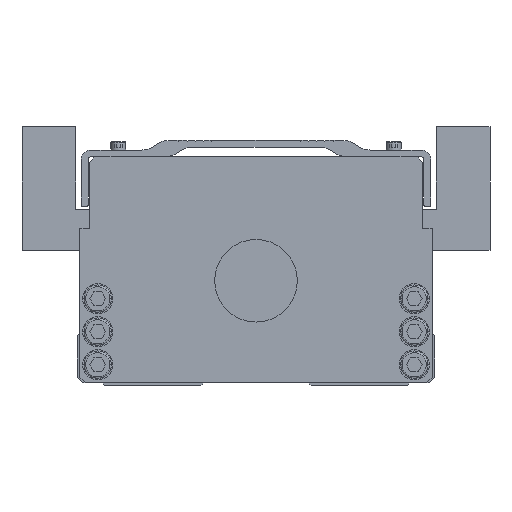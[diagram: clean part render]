
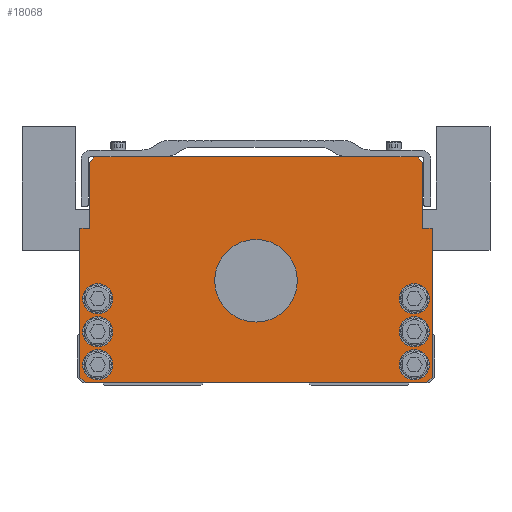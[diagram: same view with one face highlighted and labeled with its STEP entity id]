
A CAD part, front view. The second image highlights one B-rep face of the part: STEP entity #18068.
In plain terms, the highlighted planar face has unit normal (0, -1, 0).
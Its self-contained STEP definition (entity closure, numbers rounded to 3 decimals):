
#6638=VERTEX_POINT('',#19423);
#6930=EDGE_CURVE('',#6638,#8582,#19747,.T.);
#7042=EDGE_CURVE('',#13380,#16632,#19873,.T.);
#7452=VERTEX_POINT('',#20321);
#7520=VERTEX_POINT('',#20394);
#7594=VERTEX_POINT('',#20472);
#7864=EDGE_CURVE('',#8328,#7452,#20767,.T.);
#7924=EDGE_CURVE('',#9310,#6638,#20833,.T.);
#8328=VERTEX_POINT('',#21295);
#8494=EDGE_CURVE('',#17850,#12612,#21480,.T.);
#8582=VERTEX_POINT('',#21576);
#8830=EDGE_CURVE('',#16632,#14144,#21855,.T.);
#9192=EDGE_CURVE('',#14144,#11998,#22262,.T.);
#9310=VERTEX_POINT('',#22388);
#9478=EDGE_CURVE('',#14172,#9310,#22581,.T.);
#9940=EDGE_CURVE('',#16896,#11832,#23088,.T.);
#10134=EDGE_CURVE('',#18570,#7594,#23297,.T.);
#10642=VERTEX_POINT('',#23858);
#10668=VERTEX_POINT('',#23886);
#10722=EDGE_CURVE('',#8582,#11244,#23944,.T.);
#10784=EDGE_CURVE('',#15172,#16172,#24011,.T.);
#10952=EDGE_CURVE('',#7594,#18570,#24198,.T.);
#11244=VERTEX_POINT('',#24519);
#11328=EDGE_CURVE('',#17208,#7520,#24614,.T.);
#11550=EDGE_CURVE('',#18788,#18886,#24855,.T.);
#11832=VERTEX_POINT('',#25178);
#11998=VERTEX_POINT('',#25364);
#12472=EDGE_CURVE('',#16172,#15172,#25890,.T.);
#12612=VERTEX_POINT('',#26045);
#12812=VERTEX_POINT('',#26277);
#13380=VERTEX_POINT('',#26910);
#13634=EDGE_CURVE('',#7520,#17208,#27197,.T.);
#13670=EDGE_CURVE('',#12612,#17850,#27239,.T.);
#14076=EDGE_CURVE('',#12812,#17908,#27692,.T.);
#14144=VERTEX_POINT('',#27766);
#14172=VERTEX_POINT('',#27796);
#14472=EDGE_CURVE('',#11244,#13380,#28139,.T.);
#15172=VERTEX_POINT('',#28916);
#15424=EDGE_CURVE('',#17908,#12812,#29186,.T.);
#15986=EDGE_CURVE('',#16576,#10668,#29813,.T.);
#16004=EDGE_CURVE('',#11832,#16896,#29832,.T.);
#16172=VERTEX_POINT('',#30016);
#16548=EDGE_CURVE('',#11998,#8328,#30435,.T.);
#16576=VERTEX_POINT('',#30470);
#16632=VERTEX_POINT('',#30531);
#16864=EDGE_CURVE('',#10668,#14172,#30789,.T.);
#16896=VERTEX_POINT('',#30824);
#17208=VERTEX_POINT('',#31174);
#17414=EDGE_CURVE('',#10642,#16576,#31402,.T.);
#17616=EDGE_CURVE('',#7452,#10642,#31630,.T.);
#17850=VERTEX_POINT('',#31888);
#17908=VERTEX_POINT('',#31952);
#18068=ADVANCED_FACE('',(#32124,#32125,#32126,#32127,#32128,#32129,#32130,#32131),#32132,.T.);
#18174=EDGE_CURVE('',#18886,#18788,#32245,.T.);
#18570=VERTEX_POINT('',#32686);
#18788=VERTEX_POINT('',#32944);
#18886=VERTEX_POINT('',#33054);
#19423=CARTESIAN_POINT('',(-60.5,0.0,81.0));
#19747=LINE('',#34144,#34145);
#19873=LINE('',#34339,#34340);
#20321=CARTESIAN_POINT('',(64.0,0.0,3.0));
#20394=CARTESIAN_POINT('',(52.0,0.0,19.5));
#20472=CARTESIAN_POINT('',(52.0,0.0,31.5));
#20767=LINE('',#35580,#35581);
#20833=LINE('',#35672,#35673);
#21295=CARTESIAN_POINT('',(64.0,0.0,57.0));
#21480=CIRCLE('',#36550,15.0);
#21576=CARTESIAN_POINT('',(-58.5,0.0,83.0));
#21855=LINE('',#37093,#37094);
#22262=LINE('',#37652,#37653);
#22388=CARTESIAN_POINT('',(-60.5,0.0,57.0));
#22581=LINE('',#38109,#38110);
#23088=CIRCLE('',#38806,5.5);
#23297=CIRCLE('',#39113,5.5);
#23858=CARTESIAN_POINT('',(62.0,0.0,1.0));
#23886=CARTESIAN_POINT('',(-64.0,0.0,3.0));
#23944=LINE('',#40015,#40016);
#24011=CIRCLE('',#40109,5.5);
#24198=CIRCLE('',#40365,5.5);
#24519=CARTESIAN_POINT('',(-33.25,0.0,83.0));
#24614=CIRCLE('',#40929,5.5);
#24855=CIRCLE('',#41255,5.5);
#25178=CARTESIAN_POINT('',(52.0,0.0,7.5));
#25364=CARTESIAN_POINT('',(60.5,0.0,57.0));
#25890=CIRCLE('',#42714,5.5);
#26045=CARTESIAN_POINT('',(-15.0,0.0,38.0));
#26277=CARTESIAN_POINT('',(-63.0,0.0,31.5));
#26910=CARTESIAN_POINT('',(33.25,0.0,83.0));
#27197=CIRCLE('',#44496,5.5);
#27239=CIRCLE('',#44550,15.0);
#27692=CIRCLE('',#45181,5.5);
#27766=CARTESIAN_POINT('',(60.5,0.0,81.0));
#27796=CARTESIAN_POINT('',(-64.0,0.0,57.0));
#28139=LINE('',#45799,#45800);
#28916=CARTESIAN_POINT('',(-63.0,0.0,7.5));
#29186=CIRCLE('',#47252,5.5);
#29813=LINE('',#48106,#48107);
#29832=CIRCLE('',#48134,5.5);
#30016=CARTESIAN_POINT('',(-52.0,0.0,7.5));
#30435=LINE('',#48989,#48990);
#30470=CARTESIAN_POINT('',(-62.0,0.0,1.0));
#30531=CARTESIAN_POINT('',(58.5,0.0,83.0));
#30789=LINE('',#49478,#49479);
#30824=CARTESIAN_POINT('',(63.0,0.0,7.5));
#31174=CARTESIAN_POINT('',(63.0,0.0,19.5));
#31402=LINE('',#50299,#50300);
#31630=LINE('',#50598,#50599);
#31888=CARTESIAN_POINT('',(15.0,0.0,38.0));
#31952=CARTESIAN_POINT('',(-52.0,0.0,31.5));
#32124=FACE_BOUND('',#51281,.T.);
#32125=FACE_BOUND('',#51282,.T.);
#32126=FACE_BOUND('',#51283,.T.);
#32127=FACE_BOUND('',#51284,.T.);
#32128=FACE_BOUND('',#51285,.T.);
#32129=FACE_BOUND('',#51286,.T.);
#32130=FACE_BOUND('',#51287,.T.);
#32131=FACE_OUTER_BOUND('',#51288,.T.);
#32132=PLANE('',#51289);
#32245=CIRCLE('',#51450,5.5);
#32686=CARTESIAN_POINT('',(63.0,0.0,31.5));
#32944=CARTESIAN_POINT('',(-52.0,0.0,19.5));
#33054=CARTESIAN_POINT('',(-63.0,0.0,19.5));
#34144=CARTESIAN_POINT('',(-58.5,0.0,83.0));
#34145=VECTOR('',#53649,1.);
#34339=CARTESIAN_POINT('',(58.5,0.0,83.0));
#34340=VECTOR('',#53786,1.0);
#35580=CARTESIAN_POINT('',(64.0,0.0,3.0));
#35581=VECTOR('',#54755,1.0);
#35672=CARTESIAN_POINT('',(-60.5,0.0,81.0));
#35673=VECTOR('',#54838,1.0);
#36550=AXIS2_PLACEMENT_3D('',#55529,#55530,#55531);
#37093=CARTESIAN_POINT('',(60.5,0.0,81.0));
#37094=VECTOR('',#55951,1.);
#37652=CARTESIAN_POINT('',(60.5,0.0,57.0));
#37653=VECTOR('',#56434,1.0);
#38109=CARTESIAN_POINT('',(-60.5,0.0,57.0));
#38110=VECTOR('',#56811,1.0);
#38806=AXIS2_PLACEMENT_3D('',#57393,#57394,#57395);
#39113=AXIS2_PLACEMENT_3D('',#57598,#57599,#57600);
#40015=CARTESIAN_POINT('',(58.5,0.0,83.0));
#40016=VECTOR('',#58254,1.0);
#40109=AXIS2_PLACEMENT_3D('',#58314,#58315,#58316);
#40365=AXIS2_PLACEMENT_3D('',#58540,#58541,#58542);
#40929=AXIS2_PLACEMENT_3D('',#59028,#59029,#59030);
#41255=AXIS2_PLACEMENT_3D('',#59270,#59271,#59272);
#42714=AXIS2_PLACEMENT_3D('',#60510,#60511,#60512);
#44496=AXIS2_PLACEMENT_3D('',#62130,#62131,#62132);
#44550=AXIS2_PLACEMENT_3D('',#62196,#62197,#62198);
#45181=AXIS2_PLACEMENT_3D('',#62797,#62798,#62799);
#45799=CARTESIAN_POINT('',(58.5,0.0,83.0));
#45800=VECTOR('',#63317,1.0);
#47252=AXIS2_PLACEMENT_3D('',#64439,#64440,#64441);
#48106=CARTESIAN_POINT('',(-64.0,0.0,3.0));
#48107=VECTOR('',#65169,1.);
#48134=AXIS2_PLACEMENT_3D('',#65188,#65189,#65190);
#48989=CARTESIAN_POINT('',(64.0,0.0,57.0));
#48990=VECTOR('',#65881,1.0);
#49478=CARTESIAN_POINT('',(-64.0,0.0,57.0));
#49479=VECTOR('',#66282,1.0);
#50299=CARTESIAN_POINT('',(-62.0,0.0,1.0));
#50300=VECTOR('',#66939,1.0);
#50598=CARTESIAN_POINT('',(62.0,0.0,1.0));
#50599=VECTOR('',#67231,1.);
#51281=EDGE_LOOP('',(#67789,#67790));
#51282=EDGE_LOOP('',(#67791,#67792));
#51283=EDGE_LOOP('',(#67793,#67794));
#51284=EDGE_LOOP('',(#67795,#67796));
#51285=EDGE_LOOP('',(#67797,#67798));
#51286=EDGE_LOOP('',(#67799,#67800));
#51287=EDGE_LOOP('',(#67801,#67802));
#51288=EDGE_LOOP('',(#67803,#67804,#67805,#67806,#67807,#67808,#67809,#67810,#67811,#67812,#67813,#67814,#67815,#67816));
#51289=AXIS2_PLACEMENT_3D('',#67817,#67818,#67819);
#51450=AXIS2_PLACEMENT_3D('',#67935,#67936,#67937);
#53649=DIRECTION('',(0.707,0.0,0.707));
#53786=DIRECTION('',(1.0,0.0,0.0));
#54755=DIRECTION('',(-0.0,0.0,-1.0));
#54838=DIRECTION('',(0.0,0.0,1.0));
#55529=CARTESIAN_POINT('',(0.0,0.0,38.0));
#55530=DIRECTION('',(-0.0,1.0,0.0));
#55531=DIRECTION('',(1.0,0.0,0.0));
#55951=DIRECTION('',(0.707,0.0,-0.707));
#56434=DIRECTION('',(-0.0,0.0,-1.0));
#56811=DIRECTION('',(1.0,0.0,0.0));
#57393=CARTESIAN_POINT('',(57.5,0.0,7.5));
#57394=DIRECTION('',(-0.0,1.0,0.0));
#57395=DIRECTION('',(1.0,0.0,0.0));
#57598=CARTESIAN_POINT('',(57.5,0.0,31.5));
#57599=DIRECTION('',(-0.0,1.0,0.0));
#57600=DIRECTION('',(1.0,0.0,0.0));
#58254=DIRECTION('',(1.0,0.0,0.0));
#58314=CARTESIAN_POINT('',(-57.5,0.0,7.5));
#58315=DIRECTION('',(-0.0,1.0,0.0));
#58316=DIRECTION('',(1.0,0.0,0.0));
#58540=CARTESIAN_POINT('',(57.5,0.0,31.5));
#58541=DIRECTION('',(-0.0,1.0,0.0));
#58542=DIRECTION('',(1.0,0.0,0.0));
#59028=CARTESIAN_POINT('',(57.5,0.0,19.5));
#59029=DIRECTION('',(-0.0,1.0,0.0));
#59030=DIRECTION('',(1.0,0.0,0.0));
#59270=CARTESIAN_POINT('',(-57.5,0.0,19.5));
#59271=DIRECTION('',(-0.0,1.0,0.0));
#59272=DIRECTION('',(1.0,0.0,0.0));
#60510=CARTESIAN_POINT('',(-57.5,0.0,7.5));
#60511=DIRECTION('',(-0.0,1.0,0.0));
#60512=DIRECTION('',(1.0,0.0,0.0));
#62130=CARTESIAN_POINT('',(57.5,0.0,19.5));
#62131=DIRECTION('',(-0.0,1.0,0.0));
#62132=DIRECTION('',(1.0,0.0,0.0));
#62196=CARTESIAN_POINT('',(0.0,0.0,38.0));
#62197=DIRECTION('',(-0.0,1.0,0.0));
#62198=DIRECTION('',(1.0,0.0,0.0));
#62797=CARTESIAN_POINT('',(-57.5,0.0,31.5));
#62798=DIRECTION('',(-0.0,1.0,0.0));
#62799=DIRECTION('',(1.0,0.0,0.0));
#63317=DIRECTION('',(1.0,0.0,0.0));
#64439=CARTESIAN_POINT('',(-57.5,0.0,31.5));
#64440=DIRECTION('',(-0.0,1.0,0.0));
#64441=DIRECTION('',(1.0,0.0,0.0));
#65169=DIRECTION('',(-0.707,0.0,0.707));
#65188=CARTESIAN_POINT('',(57.5,0.0,7.5));
#65189=DIRECTION('',(-0.0,1.0,0.0));
#65190=DIRECTION('',(1.0,0.0,0.0));
#65881=DIRECTION('',(1.0,0.0,0.0));
#66282=DIRECTION('',(0.0,0.0,1.0));
#66939=DIRECTION('',(-1.0,0.0,-0.0));
#67231=DIRECTION('',(-0.707,0.0,-0.707));
#67789=ORIENTED_EDGE('',*,*,#8494,.T.);
#67790=ORIENTED_EDGE('',*,*,#13670,.T.);
#67791=ORIENTED_EDGE('',*,*,#10134,.T.);
#67792=ORIENTED_EDGE('',*,*,#10952,.T.);
#67793=ORIENTED_EDGE('',*,*,#11328,.T.);
#67794=ORIENTED_EDGE('',*,*,#13634,.T.);
#67795=ORIENTED_EDGE('',*,*,#9940,.T.);
#67796=ORIENTED_EDGE('',*,*,#16004,.T.);
#67797=ORIENTED_EDGE('',*,*,#15424,.T.);
#67798=ORIENTED_EDGE('',*,*,#14076,.T.);
#67799=ORIENTED_EDGE('',*,*,#11550,.T.);
#67800=ORIENTED_EDGE('',*,*,#18174,.T.);
#67801=ORIENTED_EDGE('',*,*,#12472,.T.);
#67802=ORIENTED_EDGE('',*,*,#10784,.T.);
#67803=ORIENTED_EDGE('',*,*,#15986,.F.);
#67804=ORIENTED_EDGE('',*,*,#17414,.F.);
#67805=ORIENTED_EDGE('',*,*,#17616,.F.);
#67806=ORIENTED_EDGE('',*,*,#7864,.F.);
#67807=ORIENTED_EDGE('',*,*,#16548,.F.);
#67808=ORIENTED_EDGE('',*,*,#9192,.F.);
#67809=ORIENTED_EDGE('',*,*,#8830,.F.);
#67810=ORIENTED_EDGE('',*,*,#7042,.F.);
#67811=ORIENTED_EDGE('',*,*,#14472,.F.);
#67812=ORIENTED_EDGE('',*,*,#10722,.F.);
#67813=ORIENTED_EDGE('',*,*,#6930,.F.);
#67814=ORIENTED_EDGE('',*,*,#7924,.F.);
#67815=ORIENTED_EDGE('',*,*,#9478,.F.);
#67816=ORIENTED_EDGE('',*,*,#16864,.F.);
#67817=CARTESIAN_POINT('',(0.,0.0,41.562));
#67818=DIRECTION('',(0.0,-1.0,0.0));
#67819=DIRECTION('',(1.0,0.0,0.0));
#67935=CARTESIAN_POINT('',(-57.5,0.0,19.5));
#67936=DIRECTION('',(-0.0,1.0,0.0));
#67937=DIRECTION('',(1.0,0.0,0.0));
